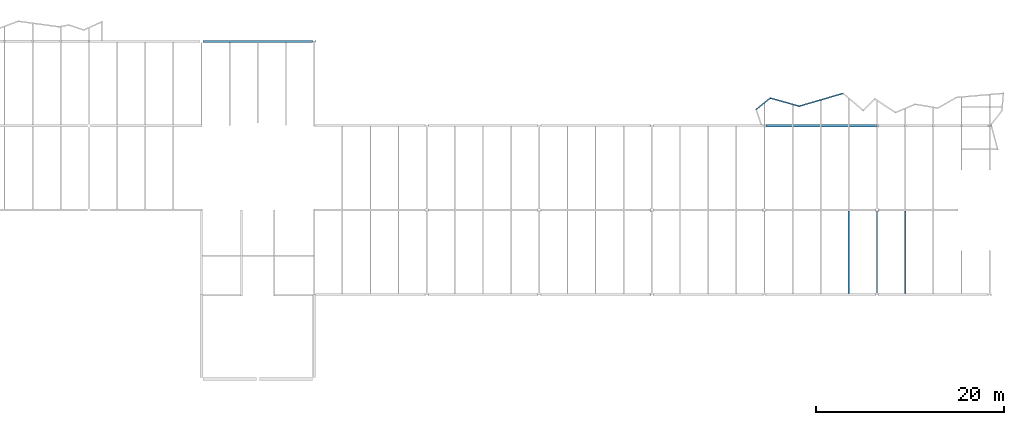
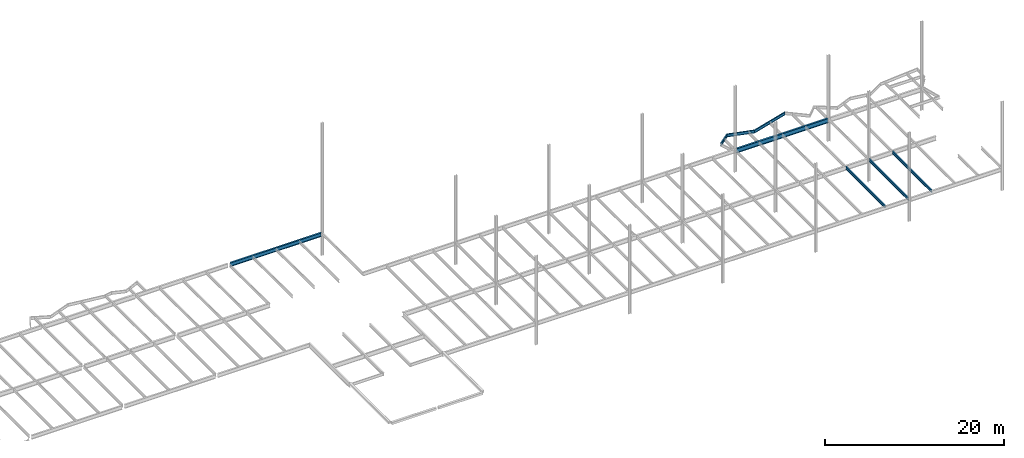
# One storey, part 22 of 26: 8 beams.
"""IFC2X3 building model written with IfcOpenShell, lengths in millimetres."""

from ifc_helpers import new_model, si_unit, origin, place, context, project, spatial, faceted_brep, material, element, save


model = new_model("IFC2X3")

# Units and contexts
context_of_model = context(None, 3, precision=1e-05, world=origin())
ifc_project = project(units=[si_unit("LENGTHUNIT", "METRE", prefix="MILLI")], contexts=[context_of_model])

# Building, storey
building = spatial("IfcBuilding", under=ifc_project, Name="Building", CompositionType="ELEMENT")
storey = spatial("IfcBuildingStorey", under=building, Name="FL4-FRM", CompositionType="ELEMENT")

# Beams
ifc_material_1 = material(Name="A992")
beam_1_placement = place(None, origin())
element("IfcBeam", 1, at=beam_1_placement, inside=storey, material=ifc_material_1, Name="Column377", context=context_of_model, shape_type="Brep", body=[
    faceted_brep([(154.0, 35895.5, 12845.0), (154.0, 36104.5, 12845.0), (11847.0, 36104.5, 12845.0), (11847.0, 35895.5, 12845.0), (154.0, 36104.5, 12858.3), (11847.0, 36104.5, 12858.3), (154.0, 36017.4, 12858.3), (11847.0, 36017.4, 12858.3), (154.0, 36014.2, 12858.7), (11847.0, 36014.2, 12858.7), (154.0, 36011.1, 12860.0), (11847.0, 36011.1, 12860.0), (154.0, 36008.5, 12862.0), (11847.0, 36008.5, 12862.0), (154.0, 36006.5, 12864.7), (11847.0, 36006.5, 12864.7), (154.0, 36005.2, 12867.7), (11847.0, 36005.2, 12867.7), (154.0, 36004.8, 12871.0), (11847.0, 36004.8, 12871.0), (154.0, 36004.8, 13347.0), (11847.0, 36004.8, 13347.0), (154.0, 36005.2, 13350.3), (11847.0, 36005.2, 13350.3), (154.0, 36006.5, 13353.3), (11847.0, 36006.5, 13353.3), (154.0, 36008.5, 13356.0), (11847.0, 36008.5, 13356.0), (154.0, 36011.1, 13358.0), (11847.0, 36011.1, 13358.0), (154.0, 36014.2, 13359.3), (11847.0, 36014.2, 13359.3), (154.0, 36017.4, 13359.7), (11847.0, 36017.4, 13359.7), (154.0, 36104.5, 13359.7), (11847.0, 36104.5, 13359.7), (154.0, 36104.5, 13373.0), (11847.0, 36104.5, 13373.0), (154.0, 35895.5, 13373.0), (11847.0, 35895.5, 13373.0), (154.0, 35895.5, 13359.7), (11847.0, 35895.5, 13359.7), (154.0, 35982.6, 13359.7), (11847.0, 35982.6, 13359.7), (154.0, 35985.8, 13359.3), (11847.0, 35985.8, 13359.3), (154.0, 35988.9, 13358.0), (11847.0, 35988.9, 13358.0), (154.0, 35991.5, 13356.0), (11847.0, 35991.5, 13356.0), (154.0, 35993.5, 13353.3), (11847.0, 35993.5, 13353.3), (154.0, 35994.8, 13350.3), (11847.0, 35994.8, 13350.3), (154.0, 35995.3, 13347.0), (11847.0, 35995.3, 13347.0), (154.0, 35995.3, 12871.0), (11847.0, 35995.3, 12871.0), (154.0, 35994.8, 12867.7), (11847.0, 35994.8, 12867.7), (154.0, 35993.5, 12864.7), (11847.0, 35993.5, 12864.7), (154.0, 35991.5, 12862.0), (11847.0, 35991.5, 12862.0), (154.0, 35988.9, 12860.0), (11847.0, 35988.9, 12860.0), (154.0, 35985.8, 12858.7), (11847.0, 35985.8, 12858.7), (154.0, 35982.6, 12858.3), (11847.0, 35982.6, 12858.3), (154.0, 35895.5, 12858.3), (11847.0, 35895.5, 12858.3)], [[[0, 1, 2, 3]], [[1, 4, 5, 2]], [[4, 6, 7, 5]], [[6, 8, 9, 7]], [[8, 10, 11, 9]], [[10, 12, 13, 11]], [[12, 14, 15, 13]], [[14, 16, 17, 15]], [[16, 18, 19, 17]], [[18, 20, 21, 19]], [[20, 22, 23, 21]], [[22, 24, 25, 23]], [[24, 26, 27, 25]], [[26, 28, 29, 27]], [[28, 30, 31, 29]], [[30, 32, 33, 31]], [[32, 34, 35, 33]], [[34, 36, 37, 35]], [[36, 38, 39, 37]], [[38, 40, 41, 39]], [[40, 42, 43, 41]], [[42, 44, 45, 43]], [[44, 46, 47, 45]], [[46, 48, 49, 47]], [[48, 50, 51, 49]], [[50, 52, 53, 51]], [[52, 54, 55, 53]], [[54, 56, 57, 55]], [[56, 58, 59, 57]], [[58, 60, 61, 59]], [[60, 62, 63, 61]], [[62, 64, 65, 63]], [[64, 66, 67, 65]], [[66, 68, 69, 67]], [[68, 70, 71, 69]], [[70, 0, 3, 71]], [[0, 70, 68, 66, 64, 62, 60, 58, 56, 54, 52, 50, 48, 46, 44, 42, 40, 38, 36, 34, 32, 30, 28, 26, 24, 22, 20, 18, 16, 14, 12, 10, 8, 6, 4, 1]], [[3, 2, 5, 7, 9, 11, 13, 15, 17, 19, 21, 23, 25, 27, 29, 31, 33, 35, 37, 39, 41, 43, 45, 47, 49, 51, 53, 55, 57, 59, 61, 63, 65, 67, 69, 71]]]),
])
ifc_material_2 = material(Name="A992")
beam_2_placement = place(None, origin())
element("IfcBeam", 2, at=beam_2_placement, inside=storey, material=ifc_material_2, Name="B236", context=context_of_model, shape_type="Brep", body=[
    faceted_brep([(69070.0, 9104.5, 12974.0), (68930.0, 9104.5, 12974.0), (68930.0, 17885.5, 12974.0), (69070.0, 17885.5, 12974.0), (68930.0, 9104.5, 12982.8), (68930.0, 17885.5, 12982.8), (68986.6, 9104.5, 12982.8), (68986.6, 17885.5, 12982.8), (68989.2, 9104.5, 12983.1), (68989.2, 17885.5, 12983.1), (68991.7, 9104.5, 12984.2), (68991.7, 17885.5, 12984.2), (68993.8, 9104.5, 12985.8), (68993.8, 17885.5, 12985.8), (68995.4, 9104.5, 12987.9), (68995.4, 17885.5, 12987.9), (68996.5, 9104.5, 12990.4), (68996.5, 17885.5, 12990.4), (68996.8, 9104.5, 12993.0), (68996.8, 17885.5, 12993.0), (68996.8, 9104.5, 13354.0), (68996.8, 17885.5, 13354.0), (68996.5, 9104.5, 13356.6), (68996.5, 17885.5, 13356.6), (68995.4, 9104.5, 13359.1), (68995.4, 17885.5, 13359.1), (68993.8, 9104.5, 13361.2), (68993.8, 17885.5, 13361.2), (68991.7, 9104.5, 13362.8), (68991.7, 17885.5, 13362.8), (68989.2, 9104.5, 13363.9), (68989.2, 17885.5, 13363.9), (68986.6, 9104.5, 13364.2), (68986.6, 17885.5, 13364.2), (68930.0, 9104.5, 13364.2), (68930.0, 17885.5, 13364.2), (68930.0, 9104.5, 13373.0), (68930.0, 17885.5, 13373.0), (69070.0, 9104.5, 13373.0), (69070.0, 17885.5, 13373.0), (69070.0, 9104.5, 13364.2), (69070.0, 17885.5, 13364.2), (69013.4, 9104.5, 13364.2), (69013.4, 17885.5, 13364.2), (69010.8, 9104.5, 13363.9), (69010.8, 17885.5, 13363.9), (69008.3, 9104.5, 13362.8), (69008.3, 17885.5, 13362.8), (69006.2, 9104.5, 13361.2), (69006.2, 17885.5, 13361.2), (69004.6, 9104.5, 13359.1), (69004.6, 17885.5, 13359.1), (69003.5, 9104.5, 13356.6), (69003.5, 17885.5, 13356.6), (69003.2, 9104.5, 13354.0), (69003.2, 17885.5, 13354.0), (69003.2, 9104.5, 12993.0), (69003.2, 17885.5, 12993.0), (69003.5, 9104.5, 12990.4), (69003.5, 17885.5, 12990.4), (69004.6, 9104.5, 12987.9), (69004.6, 17885.5, 12987.9), (69006.2, 9104.5, 12985.8), (69006.2, 17885.5, 12985.8), (69008.3, 9104.5, 12984.2), (69008.3, 17885.5, 12984.2), (69010.8, 9104.5, 12983.1), (69010.8, 17885.5, 12983.1), (69013.4, 9104.5, 12982.8), (69013.4, 17885.5, 12982.8), (69070.0, 9104.5, 12982.8), (69070.0, 17885.5, 12982.8)], [[[0, 1, 2, 3]], [[1, 4, 5, 2]], [[4, 6, 7, 5]], [[6, 8, 9, 7]], [[8, 10, 11, 9]], [[10, 12, 13, 11]], [[12, 14, 15, 13]], [[14, 16, 17, 15]], [[16, 18, 19, 17]], [[18, 20, 21, 19]], [[20, 22, 23, 21]], [[22, 24, 25, 23]], [[24, 26, 27, 25]], [[26, 28, 29, 27]], [[28, 30, 31, 29]], [[30, 32, 33, 31]], [[32, 34, 35, 33]], [[34, 36, 37, 35]], [[36, 38, 39, 37]], [[38, 40, 41, 39]], [[40, 42, 43, 41]], [[42, 44, 45, 43]], [[44, 46, 47, 45]], [[46, 48, 49, 47]], [[48, 50, 51, 49]], [[50, 52, 53, 51]], [[52, 54, 55, 53]], [[54, 56, 57, 55]], [[56, 58, 59, 57]], [[58, 60, 61, 59]], [[60, 62, 63, 61]], [[62, 64, 65, 63]], [[64, 66, 67, 65]], [[66, 68, 69, 67]], [[68, 70, 71, 69]], [[70, 0, 3, 71]], [[0, 70, 68, 66, 64, 62, 60, 58, 56, 54, 52, 50, 48, 46, 44, 42, 40, 38, 36, 34, 32, 30, 28, 26, 24, 22, 20, 18, 16, 14, 12, 10, 8, 6, 4, 1]], [[3, 2, 5, 7, 9, 11, 13, 15, 17, 19, 21, 23, 25, 27, 29, 31, 33, 35, 37, 39, 41, 43, 45, 47, 49, 51, 53, 55, 57, 59, 61, 63, 65, 67, 69, 71]]]),
])
ifc_material_3 = material(Name="A992")
beam_3_placement = place(None, origin())
element("IfcBeam", 3, at=beam_3_placement, inside=storey, material=ifc_material_3, Name="Column396", context=context_of_model, shape_type="Brep", body=[
    faceted_brep([(60154.0, 26885.5, 12761.0), (60154.0, 27114.5, 12761.0), (71930.0, 27114.5, 12761.0), (71930.0, 26885.5, 12761.0), (60154.0, 27114.5, 12780.6), (71930.0, 27114.5, 12780.6), (60154.0, 27018.6, 12780.6), (71930.0, 27018.6, 12780.6), (60154.0, 27015.4, 12781.0), (71930.0, 27015.4, 12781.0), (60154.0, 27012.3, 12782.3), (71930.0, 27012.3, 12782.3), (60154.0, 27009.7, 12784.3), (71930.0, 27009.7, 12784.3), (60154.0, 27007.7, 12787.0), (71930.0, 27007.7, 12787.0), (60154.0, 27006.4, 12790.0), (71930.0, 27006.4, 12790.0), (60154.0, 27005.9, 12793.3), (71930.0, 27005.9, 12793.3), (60154.0, 27005.9, 13340.7), (71930.0, 27005.9, 13340.7), (60154.0, 27006.4, 13344.0), (71930.0, 27006.4, 13344.0), (60154.0, 27007.7, 13347.0), (71930.0, 27007.7, 13347.0), (60154.0, 27009.7, 13349.7), (71930.0, 27009.7, 13349.7), (60154.0, 27012.3, 13351.7), (71930.0, 27012.3, 13351.7), (60154.0, 27015.4, 13353.0), (71930.0, 27015.4, 13353.0), (60154.0, 27018.6, 13353.4), (71930.0, 27018.6, 13353.4), (60154.0, 27114.5, 13353.4), (71930.0, 27114.5, 13353.4), (60154.0, 27114.5, 13373.0), (71930.0, 27114.5, 13373.0), (60154.0, 26885.5, 13373.0), (71930.0, 26885.5, 13373.0), (60154.0, 26885.5, 13353.4), (71930.0, 26885.5, 13353.4), (60154.0, 26981.4, 13353.4), (71930.0, 26981.4, 13353.4), (60154.0, 26984.6, 13353.0), (71930.0, 26984.6, 13353.0), (60154.0, 26987.7, 13351.7), (71930.0, 26987.7, 13351.7), (60154.0, 26990.3, 13349.7), (71930.0, 26990.3, 13349.7), (60154.0, 26992.3, 13347.0), (71930.0, 26992.3, 13347.0), (60154.0, 26993.6, 13344.0), (71930.0, 26993.6, 13344.0), (60154.0, 26994.1, 13340.7), (71930.0, 26994.1, 13340.7), (60154.0, 26994.1, 12793.3), (71930.0, 26994.1, 12793.3), (60154.0, 26993.6, 12790.0), (71930.0, 26993.6, 12790.0), (60154.0, 26992.3, 12787.0), (71930.0, 26992.3, 12787.0), (60154.0, 26990.3, 12784.3), (71930.0, 26990.3, 12784.3), (60154.0, 26987.7, 12782.3), (71930.0, 26987.7, 12782.3), (60154.0, 26984.6, 12781.0), (71930.0, 26984.6, 12781.0), (60154.0, 26981.4, 12780.6), (71930.0, 26981.4, 12780.6), (60154.0, 26885.5, 12780.6), (71930.0, 26885.5, 12780.6)], [[[0, 1, 2, 3]], [[1, 4, 5, 2]], [[4, 6, 7, 5]], [[6, 8, 9, 7]], [[8, 10, 11, 9]], [[10, 12, 13, 11]], [[12, 14, 15, 13]], [[14, 16, 17, 15]], [[16, 18, 19, 17]], [[18, 20, 21, 19]], [[20, 22, 23, 21]], [[22, 24, 25, 23]], [[24, 26, 27, 25]], [[26, 28, 29, 27]], [[28, 30, 31, 29]], [[30, 32, 33, 31]], [[32, 34, 35, 33]], [[34, 36, 37, 35]], [[36, 38, 39, 37]], [[38, 40, 41, 39]], [[40, 42, 43, 41]], [[42, 44, 45, 43]], [[44, 46, 47, 45]], [[46, 48, 49, 47]], [[48, 50, 51, 49]], [[50, 52, 53, 51]], [[52, 54, 55, 53]], [[54, 56, 57, 55]], [[56, 58, 59, 57]], [[58, 60, 61, 59]], [[60, 62, 63, 61]], [[62, 64, 65, 63]], [[64, 66, 67, 65]], [[66, 68, 69, 67]], [[68, 70, 71, 69]], [[70, 0, 3, 71]], [[0, 70, 68, 66, 64, 62, 60, 58, 56, 54, 52, 50, 48, 46, 44, 42, 40, 38, 36, 34, 32, 30, 28, 26, 24, 22, 20, 18, 16, 14, 12, 10, 8, 6, 4, 1]], [[3, 2, 5, 7, 9, 11, 13, 15, 17, 19, 21, 23, 25, 27, 29, 31, 33, 35, 37, 39, 41, 43, 45, 47, 49, 51, 53, 55, 57, 59, 61, 63, 65, 67, 69, 71]]]),
])
ifc_material_4 = material(Name="A992")
beam_4_placement = place(None, origin())
element("IfcBeam", 4, at=beam_4_placement, inside=storey, material=ifc_material_4, Name="B242", context=context_of_model, shape_type="Brep", body=[
    faceted_brep([(75070.0, 9104.5, 12974.0), (74930.0, 9104.5, 12974.0), (74930.0, 17885.5, 12974.0), (75070.0, 17885.5, 12974.0), (74930.0, 9104.5, 12982.8), (74930.0, 17885.5, 12982.8), (74986.6, 9104.5, 12982.8), (74986.6, 17885.5, 12982.8), (74989.2, 9104.5, 12983.1), (74989.2, 17885.5, 12983.1), (74991.7, 9104.5, 12984.2), (74991.7, 17885.5, 12984.2), (74993.8, 9104.5, 12985.8), (74993.8, 17885.5, 12985.8), (74995.4, 9104.5, 12987.9), (74995.4, 17885.5, 12987.9), (74996.5, 9104.5, 12990.4), (74996.5, 17885.5, 12990.4), (74996.8, 9104.5, 12993.0), (74996.8, 17885.5, 12993.0), (74996.8, 9104.5, 13354.0), (74996.8, 17885.5, 13354.0), (74996.5, 9104.5, 13356.6), (74996.5, 17885.5, 13356.6), (74995.4, 9104.5, 13359.1), (74995.4, 17885.5, 13359.1), (74993.8, 9104.5, 13361.2), (74993.8, 17885.5, 13361.2), (74991.7, 9104.5, 13362.8), (74991.7, 17885.5, 13362.8), (74989.2, 9104.5, 13363.9), (74989.2, 17885.5, 13363.9), (74986.6, 9104.5, 13364.2), (74986.6, 17885.5, 13364.2), (74930.0, 9104.5, 13364.2), (74930.0, 17885.5, 13364.2), (74930.0, 9104.5, 13373.0), (74930.0, 17885.5, 13373.0), (75070.0, 9104.5, 13373.0), (75070.0, 17885.5, 13373.0), (75070.0, 9104.5, 13364.2), (75070.0, 17885.5, 13364.2), (75013.4, 9104.5, 13364.2), (75013.4, 17885.5, 13364.2), (75010.8, 9104.5, 13363.9), (75010.8, 17885.5, 13363.9), (75008.3, 9104.5, 13362.8), (75008.3, 17885.5, 13362.8), (75006.2, 9104.5, 13361.2), (75006.2, 17885.5, 13361.2), (75004.6, 9104.5, 13359.1), (75004.6, 17885.5, 13359.1), (75003.5, 9104.5, 13356.6), (75003.5, 17885.5, 13356.6), (75003.2, 9104.5, 13354.0), (75003.2, 17885.5, 13354.0), (75003.2, 9104.5, 12993.0), (75003.2, 17885.5, 12993.0), (75003.5, 9104.5, 12990.4), (75003.5, 17885.5, 12990.4), (75004.6, 9104.5, 12987.9), (75004.6, 17885.5, 12987.9), (75006.2, 9104.5, 12985.8), (75006.2, 17885.5, 12985.8), (75008.3, 9104.5, 12984.2), (75008.3, 17885.5, 12984.2), (75010.8, 9104.5, 12983.1), (75010.8, 17885.5, 12983.1), (75013.4, 9104.5, 12982.8), (75013.4, 17885.5, 12982.8), (75070.0, 9104.5, 12982.8), (75070.0, 17885.5, 12982.8)], [[[0, 1, 2, 3]], [[1, 4, 5, 2]], [[4, 6, 7, 5]], [[6, 8, 9, 7]], [[8, 10, 11, 9]], [[10, 12, 13, 11]], [[12, 14, 15, 13]], [[14, 16, 17, 15]], [[16, 18, 19, 17]], [[18, 20, 21, 19]], [[20, 22, 23, 21]], [[22, 24, 25, 23]], [[24, 26, 27, 25]], [[26, 28, 29, 27]], [[28, 30, 31, 29]], [[30, 32, 33, 31]], [[32, 34, 35, 33]], [[34, 36, 37, 35]], [[36, 38, 39, 37]], [[38, 40, 41, 39]], [[40, 42, 43, 41]], [[42, 44, 45, 43]], [[44, 46, 47, 45]], [[46, 48, 49, 47]], [[48, 50, 51, 49]], [[50, 52, 53, 51]], [[52, 54, 55, 53]], [[54, 56, 57, 55]], [[56, 58, 59, 57]], [[58, 60, 61, 59]], [[60, 62, 63, 61]], [[62, 64, 65, 63]], [[64, 66, 67, 65]], [[66, 68, 69, 67]], [[68, 70, 71, 69]], [[70, 0, 3, 71]], [[0, 70, 68, 66, 64, 62, 60, 58, 56, 54, 52, 50, 48, 46, 44, 42, 40, 38, 36, 34, 32, 30, 28, 26, 24, 22, 20, 18, 16, 14, 12, 10, 8, 6, 4, 1]], [[3, 2, 5, 7, 9, 11, 13, 15, 17, 19, 21, 23, 25, 27, 29, 31, 33, 35, 37, 39, 41, 43, 45, 47, 49, 51, 53, 55, 57, 59, 61, 63, 65, 67, 69, 71]]]),
])
ifc_material_5 = material(Name="A992")
beam_5_placement = place(None, origin())
element("IfcBeam", 5, at=beam_5_placement, inside=storey, material=ifc_material_5, Name="B245", context=context_of_model, shape_type="Brep", body=[
    faceted_brep([(72070.0, 9104.5, 12974.0), (71930.0, 9104.5, 12974.0), (71930.0, 17885.5, 12974.0), (72070.0, 17885.5, 12974.0), (71930.0, 9104.5, 12982.8), (71930.0, 17885.5, 12982.8), (71986.6, 9104.5, 12982.8), (71986.6, 17885.5, 12982.8), (71989.2, 9104.5, 12983.1), (71989.2, 17885.5, 12983.1), (71991.7, 9104.5, 12984.2), (71991.7, 17885.5, 12984.2), (71993.8, 9104.5, 12985.8), (71993.8, 17885.5, 12985.8), (71995.4, 9104.5, 12987.9), (71995.4, 17885.5, 12987.9), (71996.5, 9104.5, 12990.4), (71996.5, 17885.5, 12990.4), (71996.8, 9104.5, 12993.0), (71996.8, 17885.5, 12993.0), (71996.8, 9104.5, 13354.0), (71996.8, 17885.5, 13354.0), (71996.5, 9104.5, 13356.6), (71996.5, 17885.5, 13356.6), (71995.4, 9104.5, 13359.1), (71995.4, 17885.5, 13359.1), (71993.8, 9104.5, 13361.2), (71993.8, 17885.5, 13361.2), (71991.7, 9104.5, 13362.8), (71991.7, 17885.5, 13362.8), (71989.2, 9104.5, 13363.9), (71989.2, 17885.5, 13363.9), (71986.6, 9104.5, 13364.2), (71986.6, 17885.5, 13364.2), (71930.0, 9104.5, 13364.2), (71930.0, 17885.5, 13364.2), (71930.0, 9104.5, 13373.0), (71930.0, 17885.5, 13373.0), (72070.0, 9104.5, 13373.0), (72070.0, 17885.5, 13373.0), (72070.0, 9104.5, 13364.2), (72070.0, 17885.5, 13364.2), (72013.4, 9104.5, 13364.2), (72013.4, 17885.5, 13364.2), (72010.8, 9104.5, 13363.9), (72010.8, 17885.5, 13363.9), (72008.3, 9104.5, 13362.8), (72008.3, 17885.5, 13362.8), (72006.2, 9104.5, 13361.2), (72006.2, 17885.5, 13361.2), (72004.6, 9104.5, 13359.1), (72004.6, 17885.5, 13359.1), (72003.5, 9104.5, 13356.6), (72003.5, 17885.5, 13356.6), (72003.2, 9104.5, 13354.0), (72003.2, 17885.5, 13354.0), (72003.2, 9104.5, 12993.0), (72003.2, 17885.5, 12993.0), (72003.5, 9104.5, 12990.4), (72003.5, 17885.5, 12990.4), (72004.6, 9104.5, 12987.9), (72004.6, 17885.5, 12987.9), (72006.2, 9104.5, 12985.8), (72006.2, 17885.5, 12985.8), (72008.3, 9104.5, 12984.2), (72008.3, 17885.5, 12984.2), (72010.8, 9104.5, 12983.1), (72010.8, 17885.5, 12983.1), (72013.4, 9104.5, 12982.8), (72013.4, 17885.5, 12982.8), (72070.0, 9104.5, 12982.8), (72070.0, 17885.5, 12982.8)], [[[0, 1, 2, 3]], [[1, 4, 5, 2]], [[4, 6, 7, 5]], [[6, 8, 9, 7]], [[8, 10, 11, 9]], [[10, 12, 13, 11]], [[12, 14, 15, 13]], [[14, 16, 17, 15]], [[16, 18, 19, 17]], [[18, 20, 21, 19]], [[20, 22, 23, 21]], [[22, 24, 25, 23]], [[24, 26, 27, 25]], [[26, 28, 29, 27]], [[28, 30, 31, 29]], [[30, 32, 33, 31]], [[32, 34, 35, 33]], [[34, 36, 37, 35]], [[36, 38, 39, 37]], [[38, 40, 41, 39]], [[40, 42, 43, 41]], [[42, 44, 45, 43]], [[44, 46, 47, 45]], [[46, 48, 49, 47]], [[48, 50, 51, 49]], [[50, 52, 53, 51]], [[52, 54, 55, 53]], [[54, 56, 57, 55]], [[56, 58, 59, 57]], [[58, 60, 61, 59]], [[60, 62, 63, 61]], [[62, 64, 65, 63]], [[64, 66, 67, 65]], [[66, 68, 69, 67]], [[68, 70, 71, 69]], [[70, 0, 3, 71]], [[0, 70, 68, 66, 64, 62, 60, 58, 56, 54, 52, 50, 48, 46, 44, 42, 40, 38, 36, 34, 32, 30, 28, 26, 24, 22, 20, 18, 16, 14, 12, 10, 8, 6, 4, 1]], [[3, 2, 5, 7, 9, 11, 13, 15, 17, 19, 21, 23, 25, 27, 29, 31, 33, 35, 37, 39, 41, 43, 45, 47, 49, 51, 53, 55, 57, 59, 61, 63, 65, 67, 69, 71]]]),
])
ifc_material_6 = material(Name="A992")
beam_6_placement = place(None, origin())
element("IfcBeam", 6, at=beam_6_placement, inside=storey, material=ifc_material_6, Name="B1023", context=context_of_model, shape_type="Brep", body=[
    faceted_brep([(63702.9, 29007.1, 12974.0), (63702.2, 29152.7, 12974.0), (68398.0, 30522.3, 12974.0), (68364.8, 30366.8, 12974.0), (63702.2, 29152.7, 12982.8), (68398.0, 30522.3, 12982.8), (63702.4, 29093.8, 12982.8), (68384.6, 30459.5, 12982.8), (63702.4, 29092.3, 12982.9), (68384.2, 30457.9, 12982.9), (63702.5, 29090.8, 12983.2), (68383.9, 30456.3, 12983.2), (63702.5, 29089.4, 12983.7), (68383.6, 30454.8, 12983.7), (63702.5, 29088.1, 12984.4), (68383.3, 30453.4, 12984.4), (63702.5, 29086.9, 12985.3), (68383.0, 30452.1, 12985.3), (63702.5, 29085.8, 12986.3), (68382.8, 30450.9, 12986.3), (63702.5, 29084.9, 12987.5), (68382.6, 30449.9, 12987.5), (63702.5, 29084.2, 12988.8), (68382.4, 30449.2, 12988.8), (63702.5, 29083.7, 12990.1), (68382.3, 30448.6, 12990.1), (63702.5, 29083.3, 12991.5), (68382.2, 30448.3, 12991.5), (63702.5, 29083.2, 12993.0), (68382.2, 30448.1, 12993.0), (63702.5, 29083.2, 13354.0), (68382.2, 30448.1, 13354.0), (63702.5, 29083.3, 13355.5), (68382.2, 30448.3, 13355.5), (63702.5, 29083.7, 13356.9), (68382.3, 30448.6, 13356.9), (63702.5, 29084.2, 13358.2), (68382.4, 30449.2, 13358.2), (63702.5, 29084.9, 13359.5), (68382.6, 30449.9, 13359.5), (63702.5, 29085.8, 13360.7), (68382.8, 30450.9, 13360.7), (63702.5, 29086.9, 13361.7), (68383.0, 30452.1, 13361.7), (63702.5, 29088.1, 13362.6), (68383.3, 30453.4, 13362.6), (63702.5, 29089.4, 13363.3), (68383.6, 30454.8, 13363.3), (63702.5, 29090.8, 13363.8), (68383.9, 30456.3, 13363.8), (63702.4, 29092.3, 13364.1), (68384.2, 30457.9, 13364.1), (63702.4, 29093.8, 13364.2), (68384.6, 30459.5, 13364.2), (63702.2, 29152.7, 13364.2), (68398.0, 30522.3, 13364.2), (63702.2, 29152.7, 13373.0), (68398.0, 30522.3, 13373.0), (63702.9, 29007.1, 13373.0), (68364.8, 30366.8, 13373.0), (63702.9, 29007.1, 13364.2), (68364.8, 30366.8, 13364.2), (63702.6, 29066.0, 13364.2), (68378.2, 30429.7, 13364.2), (63702.6, 29067.5, 13364.1), (68378.6, 30431.3, 13364.1), (63702.6, 29068.9, 13363.8), (68378.9, 30432.9, 13363.8), (63702.5, 29070.4, 13363.3), (68379.2, 30434.4, 13363.3), (63702.5, 29071.7, 13362.6), (68379.5, 30435.8, 13362.6), (63702.5, 29072.9, 13361.7), (68379.8, 30437.1, 13361.7), (63702.5, 29074.0, 13360.7), (68380.1, 30438.2, 13360.7), (63702.5, 29074.9, 13359.5), (68380.3, 30439.2, 13359.5), (63702.5, 29075.6, 13358.2), (68380.4, 30440.0, 13358.2), (63702.5, 29076.1, 13356.9), (68380.6, 30440.6, 13356.9), (63702.5, 29076.5, 13355.5), (68380.6, 30440.9, 13355.5), (63702.5, 29076.6, 13354.0), (68380.7, 30441.0, 13354.0), (63702.5, 29076.6, 12993.0), (68380.7, 30441.0, 12993.0), (63702.5, 29076.5, 12991.5), (68380.6, 30440.9, 12991.5), (63702.5, 29076.1, 12990.1), (68380.6, 30440.6, 12990.1), (63702.5, 29075.6, 12988.8), (68380.4, 30440.0, 12988.8), (63702.5, 29074.9, 12987.5), (68380.3, 30439.2, 12987.5), (63702.5, 29074.0, 12986.3), (68380.1, 30438.2, 12986.3), (63702.5, 29072.9, 12985.3), (68379.8, 30437.1, 12985.3), (63702.5, 29071.7, 12984.4), (68379.5, 30435.8, 12984.4), (63702.5, 29070.4, 12983.7), (68379.2, 30434.4, 12983.7), (63702.6, 29068.9, 12983.2), (68378.9, 30432.9, 12983.2), (63702.6, 29067.5, 12982.9), (68378.6, 30431.3, 12982.9), (63702.6, 29066.0, 12982.8), (68378.2, 30429.7, 12982.8), (63702.9, 29007.1, 12982.8), (68364.8, 30366.8, 12982.8)], [[[0, 1, 2, 3]], [[1, 4, 5, 2]], [[4, 6, 7, 5]], [[6, 8, 9, 7]], [[8, 10, 11, 9]], [[10, 12, 13, 11]], [[12, 14, 15, 13]], [[14, 16, 17, 15]], [[16, 18, 19, 17]], [[18, 20, 21, 19]], [[20, 22, 23, 21]], [[22, 24, 25, 23]], [[24, 26, 27, 25]], [[26, 28, 29, 27]], [[28, 30, 31, 29]], [[30, 32, 33, 31]], [[32, 34, 35, 33]], [[34, 36, 37, 35]], [[36, 38, 39, 37]], [[38, 40, 41, 39]], [[40, 42, 43, 41]], [[42, 44, 45, 43]], [[44, 46, 47, 45]], [[46, 48, 49, 47]], [[48, 50, 51, 49]], [[50, 52, 53, 51]], [[52, 54, 55, 53]], [[54, 56, 57, 55]], [[56, 58, 59, 57]], [[58, 60, 61, 59]], [[60, 62, 63, 61]], [[62, 64, 65, 63]], [[64, 66, 67, 65]], [[66, 68, 69, 67]], [[68, 70, 71, 69]], [[70, 72, 73, 71]], [[72, 74, 75, 73]], [[74, 76, 77, 75]], [[76, 78, 79, 77]], [[78, 80, 81, 79]], [[80, 82, 83, 81]], [[82, 84, 85, 83]], [[84, 86, 87, 85]], [[86, 88, 89, 87]], [[88, 90, 91, 89]], [[90, 92, 93, 91]], [[92, 94, 95, 93]], [[94, 96, 97, 95]], [[96, 98, 99, 97]], [[98, 100, 101, 99]], [[100, 102, 103, 101]], [[102, 104, 105, 103]], [[104, 106, 107, 105]], [[106, 108, 109, 107]], [[108, 110, 111, 109]], [[110, 0, 3, 111]], [[0, 110, 108, 106, 104, 102, 100, 98, 96, 94, 92, 90, 88, 86, 84, 82, 80, 78, 76, 74, 72, 70, 68, 66, 64, 62, 60, 58, 56, 54, 52, 50, 48, 46, 44, 42, 40, 38, 36, 34, 32, 30, 28, 26, 24, 22, 20, 18, 16, 14, 12, 10, 8, 6, 4, 1]], [[3, 2, 5, 7, 9, 11, 13, 15, 17, 19, 21, 23, 25, 27, 29, 31, 33, 35, 37, 39, 41, 43, 45, 47, 49, 51, 53, 55, 57, 59, 61, 63, 65, 67, 69, 71, 73, 75, 77, 79, 81, 83, 85, 87, 89, 91, 93, 95, 97, 99, 101, 103, 105, 107, 109, 111]]]),
])
ifc_material_7 = material(Name="A992")
beam_7_placement = place(None, origin())
element("IfcBeam", 7, at=beam_7_placement, inside=storey, material=ifc_material_7, Name="B1025", context=context_of_model, shape_type="Brep", body=[
    faceted_brep([(60630.3, 29871.2, 12974.0), (60598.3, 30025.7, 12974.0), (63702.2, 29152.7, 12974.0), (63702.9, 29007.1, 12974.0), (60598.3, 30025.7, 12982.8), (63702.2, 29152.7, 12982.8), (60611.3, 29963.2, 12982.8), (63702.4, 29093.8, 12982.8), (60611.6, 29961.6, 12982.9), (63702.4, 29092.3, 12982.9), (60611.9, 29960.1, 12983.2), (63702.5, 29090.8, 12983.2), (60612.2, 29958.6, 12983.7), (63702.5, 29089.4, 12983.7), (60612.5, 29957.2, 12984.4), (63702.5, 29088.1, 12984.4), (60612.8, 29955.9, 12985.3), (63702.5, 29086.9, 12985.3), (60613.0, 29954.7, 12986.3), (63702.5, 29085.8, 12986.3), (60613.2, 29953.8, 12987.5), (63702.5, 29084.9, 12987.5), (60613.4, 29953.0, 12988.8), (63702.5, 29084.2, 12988.8), (60613.5, 29952.4, 12990.1), (63702.5, 29083.7, 12990.1), (60613.6, 29952.1, 12991.5), (63702.5, 29083.3, 12991.5), (60613.6, 29952.0, 12993.0), (63702.5, 29083.2, 12993.0), (60613.6, 29952.0, 13354.0), (63702.5, 29083.2, 13354.0), (60613.6, 29952.1, 13355.5), (63702.5, 29083.3, 13355.5), (60613.5, 29952.4, 13356.9), (63702.5, 29083.7, 13356.9), (60613.4, 29953.0, 13358.2), (63702.5, 29084.2, 13358.2), (60613.2, 29953.8, 13359.5), (63702.5, 29084.9, 13359.5), (60613.0, 29954.7, 13360.7), (63702.5, 29085.8, 13360.7), (60612.8, 29955.9, 13361.7), (63702.5, 29086.9, 13361.7), (60612.5, 29957.2, 13362.6), (63702.5, 29088.1, 13362.6), (60612.2, 29958.6, 13363.3), (63702.5, 29089.4, 13363.3), (60611.9, 29960.1, 13363.8), (63702.5, 29090.8, 13363.8), (60611.6, 29961.6, 13364.1), (63702.4, 29092.3, 13364.1), (60611.3, 29963.2, 13364.2), (63702.4, 29093.8, 13364.2), (60598.3, 30025.7, 13364.2), (63702.2, 29152.7, 13364.2), (60598.3, 30025.7, 13373.0), (63702.2, 29152.7, 13373.0), (60630.3, 29871.2, 13373.0), (63702.9, 29007.1, 13373.0), (60630.3, 29871.2, 13364.2), (63702.9, 29007.1, 13364.2), (60617.4, 29933.7, 13364.2), (63702.6, 29066.0, 13364.2), (60617.1, 29935.3, 13364.1), (63702.6, 29067.5, 13364.1), (60616.7, 29936.8, 13363.8), (63702.6, 29068.9, 13363.8), (60616.4, 29938.3, 13363.3), (63702.5, 29070.4, 13363.3), (60616.1, 29939.7, 13362.6), (63702.5, 29071.7, 13362.6), (60615.9, 29941.0, 13361.7), (63702.5, 29072.9, 13361.7), (60615.6, 29942.2, 13360.7), (63702.5, 29074.0, 13360.7), (60615.4, 29943.1, 13359.5), (63702.5, 29074.9, 13359.5), (60615.3, 29943.9, 13358.2), (63702.5, 29075.6, 13358.2), (60615.2, 29944.4, 13356.9), (63702.5, 29076.1, 13356.9), (60615.1, 29944.8, 13355.5), (63702.5, 29076.5, 13355.5), (60615.1, 29944.9, 13354.0), (63702.5, 29076.6, 13354.0), (60615.1, 29944.9, 12993.0), (63702.5, 29076.6, 12993.0), (60615.1, 29944.8, 12991.5), (63702.5, 29076.5, 12991.5), (60615.2, 29944.4, 12990.1), (63702.5, 29076.1, 12990.1), (60615.3, 29943.9, 12988.8), (63702.5, 29075.6, 12988.8), (60615.4, 29943.1, 12987.5), (63702.5, 29074.9, 12987.5), (60615.6, 29942.2, 12986.3), (63702.5, 29074.0, 12986.3), (60615.9, 29941.0, 12985.3), (63702.5, 29072.9, 12985.3), (60616.1, 29939.7, 12984.4), (63702.5, 29071.7, 12984.4), (60616.4, 29938.3, 12983.7), (63702.5, 29070.4, 12983.7), (60616.7, 29936.8, 12983.2), (63702.6, 29068.9, 12983.2), (60617.1, 29935.3, 12982.9), (63702.6, 29067.5, 12982.9), (60617.4, 29933.7, 12982.8), (63702.6, 29066.0, 12982.8), (60630.3, 29871.2, 12982.8), (63702.9, 29007.1, 12982.8)], [[[0, 1, 2, 3]], [[1, 4, 5, 2]], [[4, 6, 7, 5]], [[6, 8, 9, 7]], [[8, 10, 11, 9]], [[10, 12, 13, 11]], [[12, 14, 15, 13]], [[14, 16, 17, 15]], [[16, 18, 19, 17]], [[18, 20, 21, 19]], [[20, 22, 23, 21]], [[22, 24, 25, 23]], [[24, 26, 27, 25]], [[26, 28, 29, 27]], [[28, 30, 31, 29]], [[30, 32, 33, 31]], [[32, 34, 35, 33]], [[34, 36, 37, 35]], [[36, 38, 39, 37]], [[38, 40, 41, 39]], [[40, 42, 43, 41]], [[42, 44, 45, 43]], [[44, 46, 47, 45]], [[46, 48, 49, 47]], [[48, 50, 51, 49]], [[50, 52, 53, 51]], [[52, 54, 55, 53]], [[54, 56, 57, 55]], [[56, 58, 59, 57]], [[58, 60, 61, 59]], [[60, 62, 63, 61]], [[62, 64, 65, 63]], [[64, 66, 67, 65]], [[66, 68, 69, 67]], [[68, 70, 71, 69]], [[70, 72, 73, 71]], [[72, 74, 75, 73]], [[74, 76, 77, 75]], [[76, 78, 79, 77]], [[78, 80, 81, 79]], [[80, 82, 83, 81]], [[82, 84, 85, 83]], [[84, 86, 87, 85]], [[86, 88, 89, 87]], [[88, 90, 91, 89]], [[90, 92, 93, 91]], [[92, 94, 95, 93]], [[94, 96, 97, 95]], [[96, 98, 99, 97]], [[98, 100, 101, 99]], [[100, 102, 103, 101]], [[102, 104, 105, 103]], [[104, 106, 107, 105]], [[106, 108, 109, 107]], [[108, 110, 111, 109]], [[110, 0, 3, 111]], [[0, 110, 108, 106, 104, 102, 100, 98, 96, 94, 92, 90, 88, 86, 84, 82, 80, 78, 76, 74, 72, 70, 68, 66, 64, 62, 60, 58, 56, 54, 52, 50, 48, 46, 44, 42, 40, 38, 36, 34, 32, 30, 28, 26, 24, 22, 20, 18, 16, 14, 12, 10, 8, 6, 4, 1]], [[3, 2, 5, 7, 9, 11, 13, 15, 17, 19, 21, 23, 25, 27, 29, 31, 33, 35, 37, 39, 41, 43, 45, 47, 49, 51, 53, 55, 57, 59, 61, 63, 65, 67, 69, 71, 73, 75, 77, 79, 81, 83, 85, 87, 89, 91, 93, 95, 97, 99, 101, 103, 105, 107, 109, 111]]]),
])
ifc_material_8 = material(Name="A992")
beam_8_placement = place(None, origin())
element("IfcBeam", 8, at=beam_8_placement, inside=storey, material=ifc_material_8, Name="B1027", context=context_of_model, shape_type="Brep", body=[
    faceted_brep([(59198.7, 28706.5, 12974.0), (59035.3, 28754.0, 12974.0), (60598.3, 30025.7, 12974.0), (60630.3, 29871.2, 12974.0), (59035.3, 28754.0, 12982.8), (60598.3, 30025.7, 12982.8), (59101.3, 28734.8, 12982.8), (60611.3, 29963.2, 12982.8), (59103.2, 28734.3, 12982.9), (60611.6, 29961.5, 12982.9), (59105.0, 28733.7, 12983.3), (60612.0, 29959.8, 12983.3), (59106.7, 28733.2, 12983.9), (60612.3, 29958.1, 12983.9), (59108.3, 28732.8, 12984.7), (60612.6, 29956.6, 12984.7), (59109.7, 28732.3, 12985.8), (60612.9, 29955.3, 12985.8), (59110.9, 28732.0, 12987.0), (60613.2, 29954.1, 12987.0), (59111.9, 28731.7, 12988.3), (60613.3, 29953.2, 12988.4), (59112.6, 28731.5, 12989.8), (60613.5, 29952.5, 12989.8), (59113.1, 28731.4, 12991.4), (60613.6, 29952.1, 12991.4), (59113.2, 28731.3, 12993.0), (60613.6, 29952.0, 12993.0), (59113.2, 28731.3, 13354.0), (60613.6, 29952.0, 13354.0), (59113.1, 28731.4, 13355.6), (60613.6, 29952.1, 13355.6), (59112.6, 28731.5, 13357.2), (60613.5, 29952.5, 13357.2), (59111.9, 28731.7, 13358.7), (60613.3, 29953.2, 13358.6), (59110.9, 28732.0, 13360.0), (60613.2, 29954.1, 13360.0), (59109.7, 28732.3, 13361.2), (60612.9, 29955.3, 13361.2), (59108.3, 28732.8, 13362.3), (60612.6, 29956.6, 13362.3), (59106.7, 28733.2, 13363.1), (60612.3, 29958.1, 13363.1), (59105.0, 28733.7, 13363.7), (60612.0, 29959.8, 13363.7), (59103.2, 28734.3, 13364.1), (60611.6, 29961.5, 13364.1), (59101.3, 28734.8, 13364.2), (60611.3, 29963.2, 13364.2), (59035.3, 28754.0, 13364.2), (60598.3, 30025.7, 13364.2), (59035.3, 28754.0, 13373.0), (60598.3, 30025.7, 13373.0), (59198.7, 28706.5, 13373.0), (60630.3, 29871.2, 13373.0), (59198.7, 28706.5, 13364.2), (60630.3, 29871.2, 13364.2), (59132.6, 28725.7, 13364.2), (60617.4, 29933.7, 13364.2), (59130.8, 28726.2, 13364.1), (60617.0, 29935.4, 13364.1), (59128.9, 28726.8, 13363.7), (60616.7, 29937.1, 13363.7), (59127.2, 28727.3, 13363.1), (60616.3, 29938.8, 13363.1), (59125.6, 28727.7, 13362.3), (60616.0, 29940.3, 13362.3), (59124.2, 28728.1, 13361.2), (60615.7, 29941.6, 13361.2), (59123.0, 28728.5, 13360.0), (60615.5, 29942.8, 13360.0), (59122.0, 28728.8, 13358.7), (60615.3, 29943.7, 13358.6), (59121.3, 28729.0, 13357.2), (60615.2, 29944.4, 13357.2), (59120.9, 28729.1, 13355.6), (60615.1, 29944.8, 13355.6), (59120.7, 28729.2, 13354.0), (60615.1, 29944.9, 13354.0), (59120.7, 28729.2, 12993.0), (60615.1, 29944.9, 12993.0), (59120.9, 28729.1, 12991.4), (60615.1, 29944.8, 12991.4), (59121.3, 28729.0, 12989.8), (60615.2, 29944.4, 12989.8), (59122.0, 28728.8, 12988.3), (60615.3, 29943.7, 12988.4), (59123.0, 28728.5, 12987.0), (60615.5, 29942.8, 12987.0), (59124.2, 28728.1, 12985.8), (60615.7, 29941.6, 12985.8), (59125.6, 28727.7, 12984.7), (60616.0, 29940.3, 12984.7), (59127.2, 28727.3, 12983.9), (60616.3, 29938.8, 12983.9), (59128.9, 28726.8, 12983.3), (60616.7, 29937.1, 12983.3), (59130.8, 28726.2, 12982.9), (60617.0, 29935.4, 12982.9), (59132.6, 28725.7, 12982.8), (60617.4, 29933.7, 12982.8), (59198.7, 28706.5, 12982.8), (60630.3, 29871.2, 12982.8)], [[[0, 1, 2, 3]], [[1, 4, 5, 2]], [[4, 6, 7, 5]], [[6, 8, 9, 7]], [[8, 10, 11, 9]], [[10, 12, 13, 11]], [[12, 14, 15, 13]], [[14, 16, 17, 15]], [[16, 18, 19, 17]], [[18, 20, 21, 19]], [[20, 22, 23, 21]], [[22, 24, 25, 23]], [[24, 26, 27, 25]], [[26, 28, 29, 27]], [[28, 30, 31, 29]], [[30, 32, 33, 31]], [[32, 34, 35, 33]], [[34, 36, 37, 35]], [[36, 38, 39, 37]], [[38, 40, 41, 39]], [[40, 42, 43, 41]], [[42, 44, 45, 43]], [[44, 46, 47, 45]], [[46, 48, 49, 47]], [[48, 50, 51, 49]], [[50, 52, 53, 51]], [[52, 54, 55, 53]], [[54, 56, 57, 55]], [[56, 58, 59, 57]], [[58, 60, 61, 59]], [[60, 62, 63, 61]], [[62, 64, 65, 63]], [[64, 66, 67, 65]], [[66, 68, 69, 67]], [[68, 70, 71, 69]], [[70, 72, 73, 71]], [[72, 74, 75, 73]], [[74, 76, 77, 75]], [[76, 78, 79, 77]], [[78, 80, 81, 79]], [[80, 82, 83, 81]], [[82, 84, 85, 83]], [[84, 86, 87, 85]], [[86, 88, 89, 87]], [[88, 90, 91, 89]], [[90, 92, 93, 91]], [[92, 94, 95, 93]], [[94, 96, 97, 95]], [[96, 98, 99, 97]], [[98, 100, 101, 99]], [[100, 102, 103, 101]], [[102, 0, 3, 103]], [[0, 102, 100, 98, 96, 94, 92, 90, 88, 86, 84, 82, 80, 78, 76, 74, 72, 70, 68, 66, 64, 62, 60, 58, 56, 54, 52, 50, 48, 46, 44, 42, 40, 38, 36, 34, 32, 30, 28, 26, 24, 22, 20, 18, 16, 14, 12, 10, 8, 6, 4, 1]], [[3, 2, 5, 7, 9, 11, 13, 15, 17, 19, 21, 23, 25, 27, 29, 31, 33, 35, 37, 39, 41, 43, 45, 47, 49, 51, 53, 55, 57, 59, 61, 63, 65, 67, 69, 71, 73, 75, 77, 79, 81, 83, 85, 87, 89, 91, 93, 95, 97, 99, 101, 103]]]),
])

save(model, "model.ifc")
